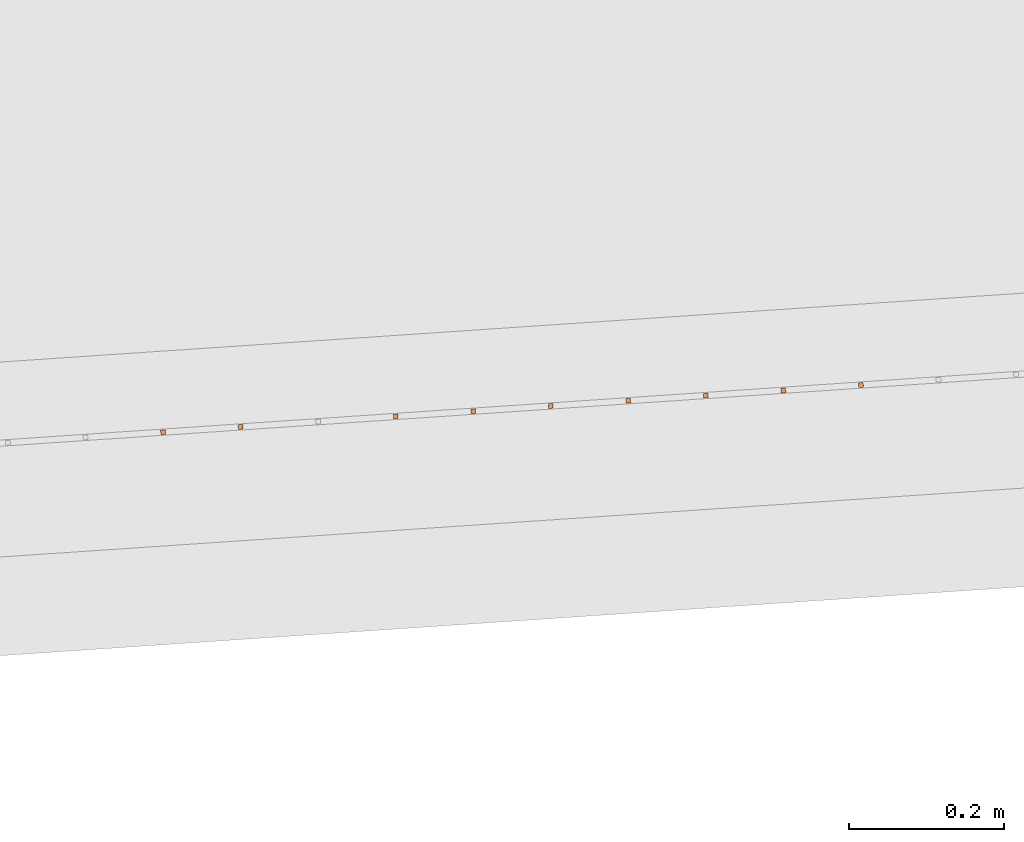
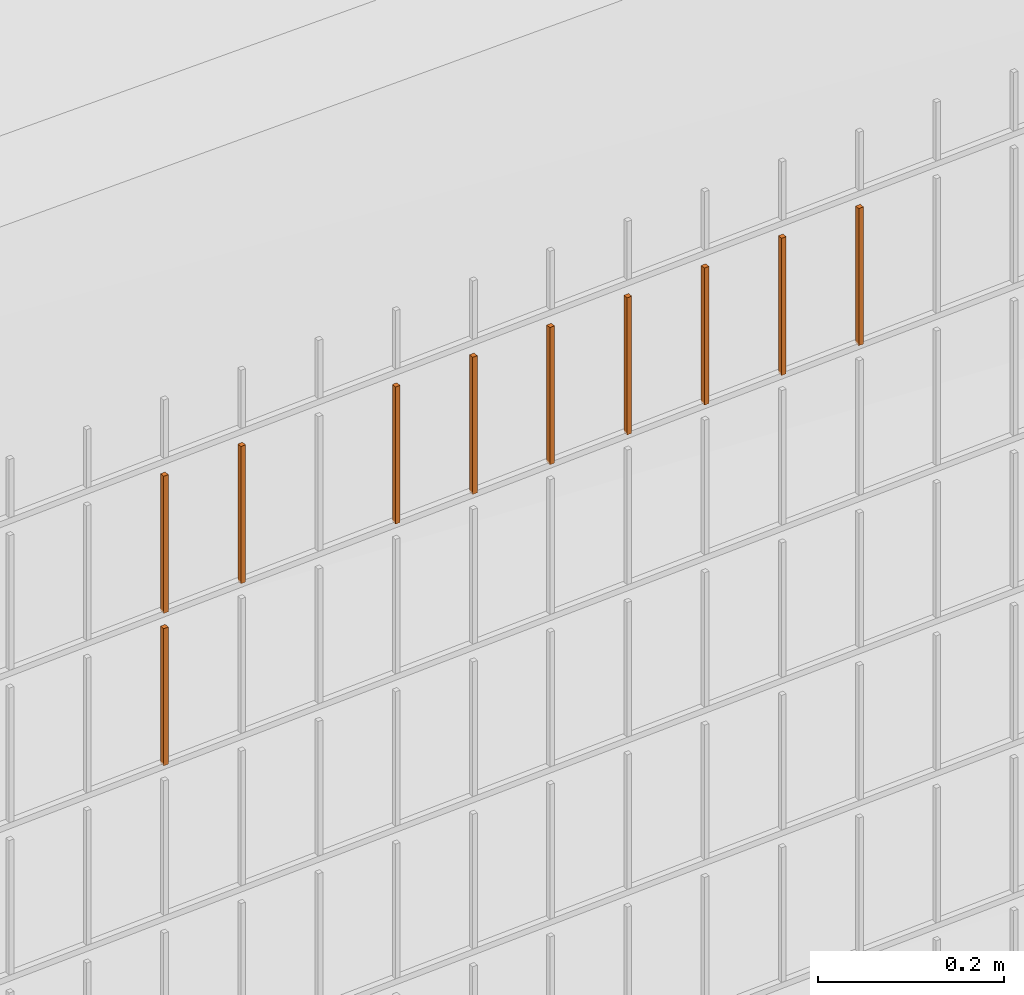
# One storey, part 363 of 1809: 10 proxies, 1 element without a shape of its own.
"""IFC2X3 building model written with IfcOpenShell, lengths in millimetres."""

from ifc_helpers import new_model, entity, si_unit, converted_unit, derived_unit, money_unit, direction, frame, origin_with_axes, place, context, subcontext, project, spatial, faceted_brep, source, transform, mapped, material, type_object, element, aggregate, save


model = new_model("IFC2X3")

# Units and contexts
model_context = context("Model", 3, precision=0.01, world=origin_with_axes(), true_north=direction((0.0, 1.0)))
body_context = subcontext(model_context, "Body", "Model", "MODEL_VIEW")
ifc_project = project(units=[si_unit("LENGTHUNIT", "METRE", prefix="MILLI"), si_unit("AREAUNIT", "SQUARE_METRE"), si_unit("VOLUMEUNIT", "CUBIC_METRE"), converted_unit("PLANEANGLEUNIT", "DEGREE", entity("IfcPlaneAngleMeasure", 0.0174532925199), si_unit("PLANEANGLEUNIT", "RADIAN"), dimensions=[0, 0, 0, 0, 0, 0, 0]), si_unit("SOLIDANGLEUNIT", "STERADIAN"), money_unit("EUR"), converted_unit("TIMEUNIT", "Year", entity("IfcTimeMeasure", 31556926.0), si_unit("TIMEUNIT", "SECOND"), dimensions=[0, 0, 1, 0, 0, 0, 0]), si_unit("MASSUNIT", "GRAM", prefix="KILO"), si_unit("THERMODYNAMICTEMPERATUREUNIT", "DEGREE_CELSIUS"), si_unit("LUMINOUSINTENSITYUNIT", "LUMEN"), si_unit("ENERGYUNIT", "JOULE", prefix="MEGA"), derived_unit("THERMALCONDUCTANCEUNIT", [(si_unit("POWERUNIT", "WATT"), 1), (si_unit("LENGTHUNIT", "METRE"), -1), (si_unit("THERMODYNAMICTEMPERATUREUNIT", "KELVIN"), -1)]), derived_unit("SPECIFICHEATCAPACITYUNIT", [(si_unit("ENERGYUNIT", "JOULE"), 1), (si_unit("MASSUNIT", "GRAM", prefix="KILO"), -1), (si_unit("THERMODYNAMICTEMPERATUREUNIT", "KELVIN"), -1)]), derived_unit("MASSDENSITYUNIT", [(si_unit("MASSUNIT", "GRAM", prefix="KILO"), 1), (si_unit("VOLUMEUNIT", "CUBIC_METRE"), -1)])], contexts=[model_context])

# Site, building, storey
site_placement = place(None, origin_with_axes())
site = spatial("IfcSite", under=ifc_project, at=site_placement, Name="Politse- ja Piirivalveameti ning Päästeameti ühishoone", CompositionType="ELEMENT")
building_placement = place(site_placement, origin_with_axes())
building = spatial("IfcBuilding", under=site, at=building_placement, Name="Politse- ja Piirivalveameti ning Päästeameti ühishoone", CompositionType="ELEMENT")
storey_placement = place(building_placement, origin_with_axes())
storey = spatial("IfcBuildingStorey", under=building, at=storey_placement, Name="Esimene korrus", CompositionType="ELEMENT", Elevation=0.0)

# Proxies
building_element_proxy_type_1 = type_object("IfcBuildingElementProxyType", Name="Railing Type", PredefinedType="NOTDEFINED")
proxy_1_placement = place(storey_placement, frame((89252.001212, -29183.4766571, 203.661247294), z_axis=(0.0, 0.0, 1.0), x_axis=(1.0, 0.0, 0.0)))
proxy_1 = element("IfcBuildingElementProxy", 1, at=proxy_1_placement, inside=storey, type_object=building_element_proxy_type_1, Name="PIIRDEAED")
ifc_material = material(Name="ET-03_Raud")
building_element_proxy_type_2 = type_object("IfcBuildingElementProxyType", Name="IfcBuildingElementProxy", PredefinedType="NOTDEFINED")
shared_shape_1 = source(origin_with_axes(), body_context, "Body", "Brep", [
    faceted_brep([(3.0, 3.0, -0.000752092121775), (-3.0, 3.0, -0.000752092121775), (-3.0, 3.0, 179.99926046), (3.0, 3.0, 179.99926046), (3.0, -3.0, 0.000752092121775), (-3.0, -3.0, 0.000752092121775), (-3.0, -3.0, 180.000764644), (3.0, -3.0, 180.000764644)], [[[0, 1, 2, 3]], [[0, 4, 5, 1]], [[1, 5, 6, 2]], [[3, 2, 6, 7]], [[4, 0, 3, 7]], [[5, 4, 7, 6]]]),
])
proxy_2_placement = place(proxy_1_placement, frame((-23473.2007557, -18883.300888, 1821.33630662), z_axis=(0.0, 0.0, 1.0), x_axis=(1.0, 0.0, 0.0)))
proxy_2 = element("IfcBuildingElementProxy", 2, at=proxy_2_placement, type_object=building_element_proxy_type_2, material=ifc_material, Name="BALUSTER - 001", context=body_context, shape_type="MappedRepresentation", body=[
    mapped(shared_shape_1, transform((0.0, 0.0, 0.0), x_axis=(-0.0673926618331, 0.997726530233, 0.0), y_axis=(-0.997726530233, -0.0673926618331, 0.0), z_axis=(0.0, 0.0, 1.0))),
])
proxy_3_placement = place(proxy_1_placement, frame((-23572.9734087, -18890.0401542, 1821.31123688), z_axis=(0.0, 0.0, 1.0), x_axis=(1.0, 0.0, 0.0)))
proxy_3 = element("IfcBuildingElementProxy", 3, at=proxy_3_placement, type_object=building_element_proxy_type_2, material=ifc_material, Name="BALUSTER - 001", context=body_context, shape_type="MappedRepresentation", body=[
    mapped(shared_shape_1, transform((0.0, 0.0, 0.0), x_axis=(-0.0673926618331, 0.997726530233, 0.0), y_axis=(-0.997726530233, -0.0673926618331, 0.0), z_axis=(0.0, 0.0, 1.0))),
])
shared_shape_2 = source(origin_with_axes(), body_context, "Body", "Brep", [
    faceted_brep([(3.0, 3.0, -0.000752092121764), (-3.0, 3.0, -0.000752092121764), (-3.0, 3.0, 179.99926046), (3.0, 3.0, 179.99926046), (3.0, -3.0, 0.000752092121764), (-3.0, -3.0, 0.000752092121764), (-3.0, -3.0, 180.000764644), (3.0, -3.0, 180.000764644)], [[[0, 1, 2, 3]], [[0, 4, 5, 1]], [[1, 5, 6, 2]], [[3, 2, 6, 7]], [[4, 0, 3, 7]], [[5, 4, 7, 6]]]),
])
proxy_4_placement = place(proxy_1_placement, frame((-24071.8366738, -18923.7364851, 1621.18588819), z_axis=(0.0, 0.0, 1.0), x_axis=(1.0, 0.0, 0.0)))
proxy_4 = element("IfcBuildingElementProxy", 4, at=proxy_4_placement, type_object=building_element_proxy_type_2, material=ifc_material, Name="BALUSTER - 001", context=body_context, shape_type="MappedRepresentation", body=[
    mapped(shared_shape_2, transform((0.0, 0.0, 0.0), x_axis=(-0.0673926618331, 0.997726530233, 0.0), y_axis=(-0.997726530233, -0.0673926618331, 0.0), z_axis=(0.0, 0.0, 1.0))),
])
shared_shape_3 = source(origin_with_axes(), body_context, "Body", "Brep", [
    faceted_brep([(3.0, 3.0, -0.000752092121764), (-3.0, 3.0, -0.000752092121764), (-3.0, 3.0, 179.99926046), (3.0, 3.0, 179.99926046), (3.0, -3.0, 0.000752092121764), (-3.0, -3.0, 0.000752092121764), (-3.0, -3.0, 180.000764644), (3.0, -3.0, 180.000764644)], [[[0, 1, 2, 3]], [[0, 4, 5, 1]], [[1, 5, 6, 2]], [[3, 2, 6, 7]], [[4, 0, 3, 7]], [[5, 4, 7, 6]]]),
])
proxy_5_placement = place(proxy_1_placement, frame((-23273.6554496, -18869.8223556, 1821.38644609), z_axis=(0.0, 0.0, 1.0), x_axis=(1.0, 0.0, 0.0)))
proxy_5 = element("IfcBuildingElementProxy", 5, at=proxy_5_placement, type_object=building_element_proxy_type_2, material=ifc_material, Name="BALUSTER - 001", context=body_context, shape_type="MappedRepresentation", body=[
    mapped(shared_shape_3, transform((0.0, 0.0, 0.0), x_axis=(-0.0673926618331, 0.997726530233, 0.0), y_axis=(-0.997726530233, -0.0673926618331, 0.0), z_axis=(0.0, 0.0, 1.0))),
])
proxy_6_placement = place(proxy_1_placement, frame((-24071.8366738, -18923.7364851, 1821.18588819), z_axis=(0.0, 0.0, 1.0), x_axis=(1.0, 0.0, 0.0)))
proxy_6 = element("IfcBuildingElementProxy", 6, at=proxy_6_placement, type_object=building_element_proxy_type_2, material=ifc_material, Name="BALUSTER - 001", context=body_context, shape_type="MappedRepresentation", body=[
    mapped(shared_shape_3, transform((0.0, 0.0, 0.0), x_axis=(-0.0673926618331, 0.997726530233, 0.0), y_axis=(-0.997726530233, -0.0673926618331, 0.0), z_axis=(0.0, 0.0, 1.0))),
])
shared_shape_4 = source(origin_with_axes(), body_context, "Body", "Brep", [
    faceted_brep([(3.0, 3.0, -0.000752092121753), (-3.0, 3.0, -0.000752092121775), (-3.0, 3.0, 179.99926046), (3.0, 3.0, 179.99926046), (3.0, -3.0, 0.000752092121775), (-3.0, -3.0, 0.000752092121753), (-3.0, -3.0, 180.000764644), (3.0, -3.0, 180.000764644)], [[[0, 1, 2, 3]], [[0, 4, 5, 1]], [[1, 5, 6, 2]], [[3, 2, 6, 7]], [[4, 0, 3, 7]], [[5, 4, 7, 6]]]),
])
proxy_7_placement = place(proxy_1_placement, frame((-23173.8827966, -18863.0830894, 1821.41151583), z_axis=(0.0, 0.0, 1.0), x_axis=(1.0, 0.0, 0.0)))
proxy_7 = element("IfcBuildingElementProxy", 7, at=proxy_7_placement, type_object=building_element_proxy_type_2, material=ifc_material, Name="BALUSTER - 001", context=body_context, shape_type="MappedRepresentation", body=[
    mapped(shared_shape_4, transform((0.0, 0.0, 0.0), x_axis=(-0.0673926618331, 0.997726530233, 0.0), y_axis=(-0.997726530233, -0.0673926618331, 0.0), z_axis=(0.0, 0.0, 1.0))),
])
shared_shape_5 = source(origin_with_axes(), body_context, "Body", "Brep", [
    faceted_brep([(3.0, 3.0, -0.000752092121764), (-3.0, 3.0, -0.000752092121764), (-3.0, 3.0, 179.99926046), (3.0, 3.0, 179.99926046), (3.0, -3.0, 0.000752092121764), (-3.0, -3.0, 0.000752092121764), (-3.0, -3.0, 180.000764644), (3.0, -3.0, 180.000764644)], [[[0, 1, 2, 3]], [[0, 4, 5, 1]], [[1, 5, 6, 2]], [[3, 2, 6, 7]], [[4, 0, 3, 7]], [[5, 4, 7, 6]]]),
])
proxy_8_placement = place(proxy_1_placement, frame((-23373.4281026, -18876.5616218, 1821.36137636), z_axis=(0.0, 0.0, 1.0), x_axis=(1.0, 0.0, 0.0)))
proxy_8 = element("IfcBuildingElementProxy", 8, at=proxy_8_placement, type_object=building_element_proxy_type_2, material=ifc_material, Name="BALUSTER - 001", context=body_context, shape_type="MappedRepresentation", body=[
    mapped(shared_shape_5, transform((0.0, 0.0, 0.0), x_axis=(-0.0673926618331, 0.997726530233, 0.0), y_axis=(-0.997726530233, -0.0673926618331, 0.0), z_axis=(0.0, 0.0, 1.0))),
])
proxy_9_placement = place(proxy_1_placement, frame((-23972.0640208, -18916.9972189, 1821.21095793), z_axis=(0.0, 0.0, 1.0), x_axis=(1.0, 0.0, 0.0)))
proxy_9 = element("IfcBuildingElementProxy", 9, at=proxy_9_placement, type_object=building_element_proxy_type_2, material=ifc_material, Name="BALUSTER - 001", context=body_context, shape_type="MappedRepresentation", body=[
    mapped(shared_shape_5, transform((0.0, 0.0, 0.0), x_axis=(-0.0673926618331, 0.997726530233, 0.0), y_axis=(-0.997726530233, -0.0673926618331, 0.0), z_axis=(0.0, 0.0, 1.0))),
])
shared_shape_6 = source(origin_with_axes(), body_context, "Body", "Brep", [
    faceted_brep([(3.0, 3.0, -0.000752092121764), (-3.0, 3.0, -0.000752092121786), (-3.0, 3.0, 179.99926046), (3.0, 3.0, 179.99926046), (3.0, -3.0, 0.000752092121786), (-3.0, -3.0, 0.000752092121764), (-3.0, -3.0, 180.000764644), (3.0, -3.0, 180.000764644)], [[[0, 1, 2, 3]], [[0, 4, 5, 1]], [[1, 5, 6, 2]], [[3, 2, 6, 7]], [[4, 0, 3, 7]], [[5, 4, 7, 6]]]),
])
proxy_10_placement = place(proxy_1_placement, frame((-23672.7460617, -18896.7794204, 1821.28616714), z_axis=(0.0, 0.0, 1.0), x_axis=(1.0, 0.0, 0.0)))
proxy_10 = element("IfcBuildingElementProxy", 10, at=proxy_10_placement, type_object=building_element_proxy_type_2, material=ifc_material, Name="BALUSTER - 001", context=body_context, shape_type="MappedRepresentation", body=[
    mapped(shared_shape_6, transform((0.0, 0.0, 0.0), x_axis=(-0.0673926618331, 0.997726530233, 0.0), y_axis=(-0.997726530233, -0.0673926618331, 0.0), z_axis=(0.0, 0.0, 1.0))),
])
shared_shape_7 = source(origin_with_axes(), body_context, "Body", "Brep", [
    faceted_brep([(3.0, 3.0, -0.000752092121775), (-3.0, 3.0, -0.000752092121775), (-3.0, 3.0, 179.99926046), (3.0, 3.0, 179.99926046), (3.0, -3.0, 0.000752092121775), (-3.0, -3.0, 0.000752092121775), (-3.0, -3.0, 180.000764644), (3.0, -3.0, 180.000764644)], [[[0, 1, 2, 3]], [[0, 4, 5, 1]], [[1, 5, 6, 2]], [[3, 2, 6, 7]], [[4, 0, 3, 7]], [[5, 4, 7, 6]]]),
])
proxy_11_placement = place(proxy_1_placement, frame((-23772.5187147, -18903.5186865, 1821.26109741), z_axis=(0.0, 0.0, 1.0), x_axis=(1.0, 0.0, 0.0)))
proxy_11 = element("IfcBuildingElementProxy", 11, at=proxy_11_placement, type_object=building_element_proxy_type_2, material=ifc_material, Name="BALUSTER - 001", context=body_context, shape_type="MappedRepresentation", body=[
    mapped(shared_shape_7, transform((0.0, 0.0, 0.0), x_axis=(-0.0673926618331, 0.997726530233, 0.0), y_axis=(-0.997726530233, -0.0673926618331, 0.0), z_axis=(0.0, 0.0, 1.0))),
])
aggregate(proxy_1, [proxy_4, proxy_7, proxy_5, proxy_8, proxy_2, proxy_3, proxy_10, proxy_11, proxy_9, proxy_6])

save(model, "model.ifc")
